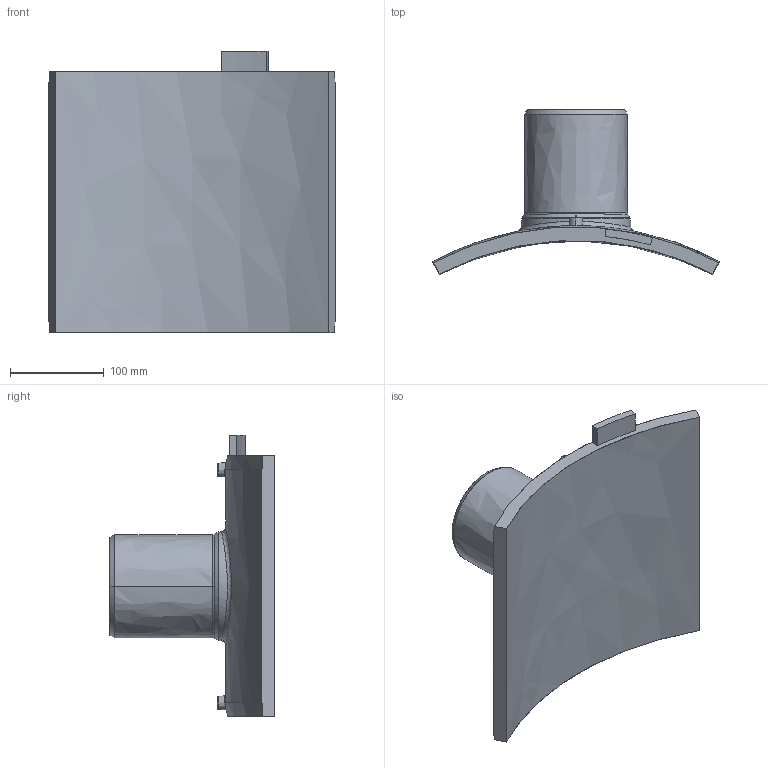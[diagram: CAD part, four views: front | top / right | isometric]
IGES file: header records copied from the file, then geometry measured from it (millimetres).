
Start section:  PTC IGES file: sa-uni_d630_110_01.igs
Global section: file name: sa-uni_d630_110_01.igs; native system: Pro/ENGINEER by Parametric Technology Corporation; preprocessor: 2011490; author: MikulicP; organization: Unknown; date: 20170206.115704; units: millimetre
Bounding box: 305.76 x 175.85 x 301 mm (x, y, z)
Surface area: 279746.2 mm2 (no closed solid volume)
Topology: 0 solids, 0 shells, 200 faces, 984 edges, 984 vertices
Faces by surface type: bspline 200
